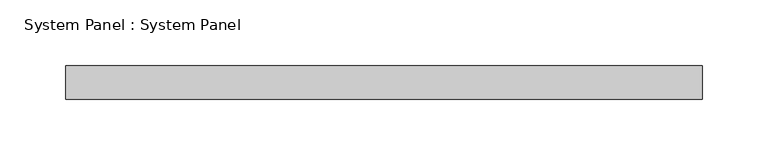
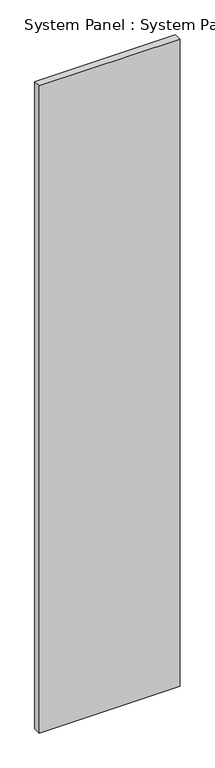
"""IFC4 building model written with IfcOpenShell, lengths in millimetres: plate geometry, System Panel : System Panel."""

from ifc_helpers import new_model, si_unit, origin, origin_with_axes, place, context, project, spatial, polyline, outline, extrude, source, transform, mapped, element, save


def system_panel_system_panel_648afc43(model_context):
    return source(origin(), model_context, "Body", "SweptSolid", [
        extrude(outline(polyline([(241.3, 19.05), (-241.3, 19.05), (-241.3, 44.45), (241.3, 44.45), (241.3, 19.05)])), origin_with_axes(), (0.0, 0.0, 1.0), 2343.15),
    ])


if __name__ == "__main__":
    model = new_model("IFC4")
    model_context = context("Model", 3, world=origin())
    ifc_project = project(units=[si_unit("LENGTHUNIT", "METRE", prefix="MILLI")], contexts=[model_context])
    site = spatial("IfcSite", under=ifc_project)
    building = spatial("IfcBuilding", under=site)
    placement = place(None, origin())
    system_panel_system_panel_shape = system_panel_system_panel_648afc43(model_context)
    element("IfcPlate", 1, ObjectType="System Panel : System Panel", at=placement, inside=building, context=model_context, shape_type="MappedRepresentation", body=[
        mapped(system_panel_system_panel_shape, transform((0.0, 0.0, 0.0), x_axis=(1.0, 0.0, 0.0), y_axis=(0.0, 1.0, 0.0), z_axis=(0.0, 0.0, 1.0))),
    ])
    save(model, "model.ifc")
